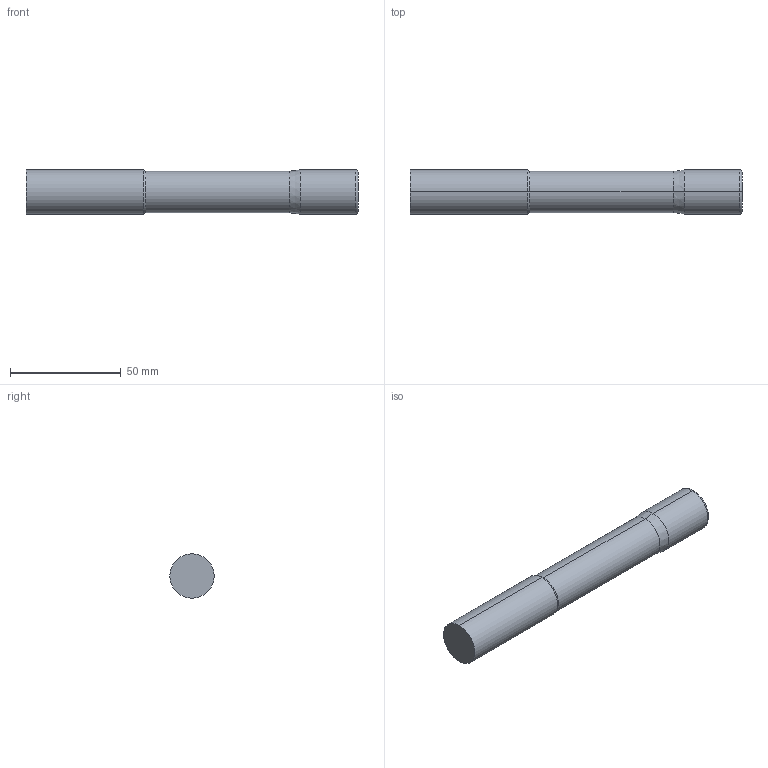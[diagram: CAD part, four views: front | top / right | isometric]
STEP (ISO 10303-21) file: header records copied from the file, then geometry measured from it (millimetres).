
FILE_DESCRIPTION (( 'STEP AP214' ), '1' );
FILE_NAME ('SSIRNM520M-1.STEP', '2025-05-29T19:18:18', ( '' ), ( '' ), 'SwSTEP 2.0', 'SolidWorks 2023', '' );
FILE_SCHEMA (( 'AUTOMOTIVE_DESIGN' ));
Length unit declared in the file: millimetre
Products named in the file (3): SSIRNM520M-1; SSI5 Metric SHANK_SSIRNM520M-1; SSI5 Metric CUTTING_SSIRNM520M-1
Assembly tree (2 placements, depth 2):
  SSIRNM520M-1
    SSI5 Metric CUTTING_SSIRNM520M-1
    SSI5 Metric SHANK_SSIRNM520M-1
Bounding box: 150 x 20 x 20 mm (x, y, z)
Volume: 44542.1 mm3; surface area: 10401.5 mm2
Topology: 2 solids, 2 shells, 16 faces, 28 edges, 16 vertices
Faces by surface type: cylinder 6, plane 4, cone 4, torus 2
Entity records: 474 total; most frequent: DIRECTION 88, CARTESIAN_POINT 65, ORIENTED_EDGE 56, AXIS2_PLACEMENT_3D 39, EDGE_CURVE 28, CIRCLE 18, ADVANCED_FACE 16, EDGE_LOOP 16
